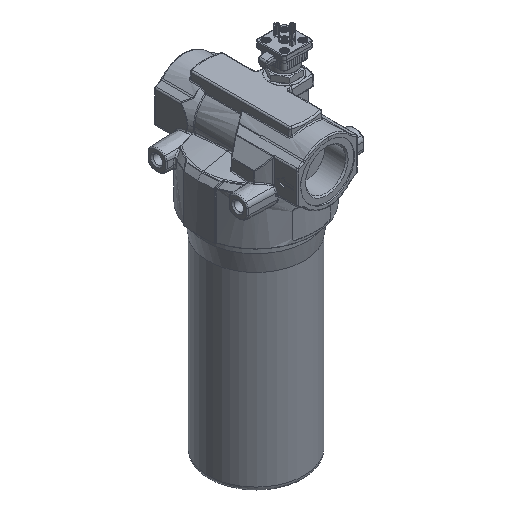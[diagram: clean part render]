
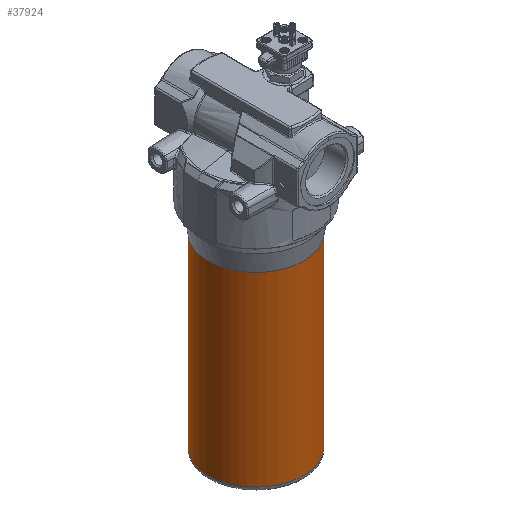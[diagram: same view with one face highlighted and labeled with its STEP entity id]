
A CAD part, isometric view. The second image highlights one B-rep face of the part: STEP entity #37924.
In plain terms, the highlighted free-form (B-spline) face has degree [2, 1] with [7, 2] control points.
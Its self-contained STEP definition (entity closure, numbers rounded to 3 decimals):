
#37837=CARTESIAN_POINT('V808',(0.,47.5,
   -210.012));
#37838=VERTEX_POINT('V808',#37837);
#37854=CARTESIAN_POINT('E1409',(0.,47.5,
   -210.012));
#37855=CARTESIAN_POINT('E1409',(82.272,
   47.5,-210.012));
#37856=CARTESIAN_POINT('E1409',(41.136,
   -23.75,-210.012));
#37857=CARTESIAN_POINT('E1409',(0.,-95.,
   -210.012));
#37858=CARTESIAN_POINT('E1409',(-41.136,
   -23.75,-210.012));
#37859=CARTESIAN_POINT('E1409',(-82.272,
   47.5,-210.012));
#37860=CARTESIAN_POINT('E1409',(0.,47.5,
   -210.012));
#37868=(BOUNDED_CURVE()B_SPLINE_CURVE(2,(#37854,#37855,#37856,
   #37857,#37858,#37859,#37860),.CIRCULAR_ARC.,.T.,.U.)
   B_SPLINE_CURVE_WITH_KNOTS((3,2,2,3),(0.0,17.46,
   34.921,52.381),.UNSPECIFIED.)CURVE()
   GEOMETRIC_REPRESENTATION_ITEM()RATIONAL_B_SPLINE_CURVE((1.0,
   0.5,1.0,0.5,1.0,0.5,1.0)
   )REPRESENTATION_ITEM('E1409'));
#37869=EDGE_CURVE('E1409',#37838,#37838,#37868,.T.);
#37874=CARTESIAN_POINT('F589',(0.,47.5,
   -210.012));
#37875=CARTESIAN_POINT('F589',(-82.272,
   47.5,-210.012));
#37876=CARTESIAN_POINT('F589',(-41.136,
   -23.75,-210.012));
#37877=CARTESIAN_POINT('F589',(0.,-95.,
   -210.012));
#37878=CARTESIAN_POINT('F589',(41.136,
   -23.75,-210.012));
#37879=CARTESIAN_POINT('F589',(82.272,47.5,
   -210.012));
#37880=CARTESIAN_POINT('F589',(0.,47.5,
   -210.012));
#37881=CARTESIAN_POINT('F589',(0.,47.5,
   -26.333));
#37882=CARTESIAN_POINT('F589',(-82.272,
   47.5,-26.333));
#37883=CARTESIAN_POINT('F589',(-41.136,
   -23.75,-26.333));
#37884=CARTESIAN_POINT('F589',(0.,-95.,
   -26.333));
#37885=CARTESIAN_POINT('F589',(41.136,
   -23.75,-26.333));
#37886=CARTESIAN_POINT('F589',(82.272,47.5,
   -26.333));
#37887=CARTESIAN_POINT('F589',(0.,47.5,
   -26.333));
#37895=(BOUNDED_SURFACE()B_SPLINE_SURFACE(2,1,((#37874,#37881),(
   #37875,#37882),(#37876,#37883),(#37877,#37884),(#37878,
   #37885),(#37879,#37886),(#37880,#37887)),.CYLINDRICAL_SURF.,
   .T.,.F.,.U.)B_SPLINE_SURFACE_WITH_KNOTS((3,2,2,3),(2,2),(0.0,
   0.896,1.792,2.687),(0.0,1.0),
   .UNSPECIFIED.)GEOMETRIC_REPRESENTATION_ITEM()
   RATIONAL_B_SPLINE_SURFACE(((1.0,1.0),(0.5,
   0.5),(1.0,1.0),(0.5,
   0.5),(1.0,1.0),(0.5,
   0.5),(1.0,1.0)))REPRESENTATION_ITEM('F589')
   SURFACE());
#37896=CARTESIAN_POINT('V809',(0.,47.5,
   -26.333));
#37897=VERTEX_POINT('V809',#37896);
#37898=CARTESIAN_POINT('E1410',(0.,47.5,
   -26.333));
#37899=CARTESIAN_POINT('E1410',(0.,47.5,
   -210.012));
#37900=QUASI_UNIFORM_CURVE('E1410',1,(#37898,#37899),.POLYLINE_FORM.,
   .F.,.U.);
#37901=EDGE_CURVE('E1410',#37897,#37838,#37900,.T.);
#37902=ORIENTED_EDGE('E1410',*,*,#37901,.T.);
#37903=ORIENTED_EDGE('F588',*,*,#37869,.F.);
#37904=ORIENTED_EDGE('E1410',*,*,#37901,.F.);
#37905=CARTESIAN_POINT('E1411',(0.,47.5,
   -26.333));
#37906=CARTESIAN_POINT('E1411',(82.272,
   47.5,-26.333));
#37907=CARTESIAN_POINT('E1411',(41.136,
   -23.75,-26.333));
#37908=CARTESIAN_POINT('E1411',(0.,-95.,
   -26.333));
#37909=CARTESIAN_POINT('E1411',(-41.136,
   -23.75,-26.333));
#37910=CARTESIAN_POINT('E1411',(-82.272,
   47.5,-26.333));
#37911=CARTESIAN_POINT('E1411',(0.,47.5,
   -26.333));
#37919=(BOUNDED_CURVE()B_SPLINE_CURVE(2,(#37905,#37906,#37907,
   #37908,#37909,#37910,#37911),.CIRCULAR_ARC.,.T.,.U.)
   B_SPLINE_CURVE_WITH_KNOTS((3,2,2,3),(0.0,0.896,
   1.792,2.687),.UNSPECIFIED.)CURVE()
   GEOMETRIC_REPRESENTATION_ITEM()RATIONAL_B_SPLINE_CURVE((1.0,
   0.5,1.0,0.5,1.0,0.5,1.0)
   )REPRESENTATION_ITEM('E1411'));
#37920=EDGE_CURVE('E1411',#37897,#37897,#37919,.T.);
#37921=ORIENTED_EDGE('E1411',*,*,#37920,.T.);
#37922=EDGE_LOOP('F589',(#37902,#37903,#37904,#37921));
#37923=FACE_OUTER_BOUND('F589',#37922,.T.);
#37924=ADVANCED_FACE('F589',(#37923),#37895,.T.);
